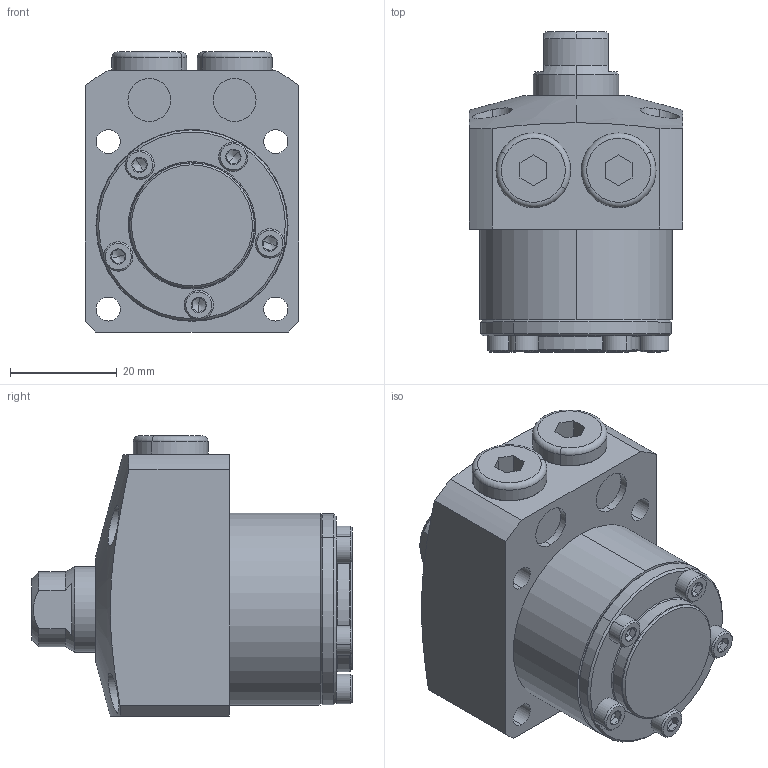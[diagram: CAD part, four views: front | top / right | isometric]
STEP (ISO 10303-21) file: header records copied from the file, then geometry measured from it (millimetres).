
FILE_DESCRIPTION (( 'STEP AP203' ), '1' );
FILE_NAME ('680360-CA-015.step', '2016-11-02T03:17:02', ( 'wxp' ), ( '' ), 'SwSTEP 2.0', 'SolidWorks 2011', '' );
FILE_SCHEMA (( 'CONFIG_CONTROL_DESIGN' ));
Length unit declared in the file: millimetre
Products named in the file (6): 680360-CA-015; 68036-15-5^680360-CA-015; 68036-15-4^680360-CA-015; 68036-15-3^680360-CA-015; 68036-15-2^680360-CA-015; 68036-15-1^680360-CA-015
Assembly tree (10 placements, depth 2):
  680360-CA-015
    68036-15-4^680360-CA-015  x5
    68036-15-3^680360-CA-015
    68036-15-1^680360-CA-015
    68036-15-5^680360-CA-015  x2
    68036-15-2^680360-CA-015
Bounding box: 40 x 60 x 52.5 mm (x, y, z)
Volume: 65910 mm3; surface area: 19030.4 mm2
Topology: 10 solids, 10 shells, 312 faces, 615 edges, 341 vertices
Faces by surface type: plane 125, cylinder 87, cone 84, torus 16
Entity records: 5529 total; most frequent: CARTESIAN_POINT 1131, DIRECTION 843, ORIENTED_EDGE 686, AXIS2_PLACEMENT_3D 353, EDGE_CURVE 343, VERTEX_POINT 209, EDGE_LOOP 198, CIRCLE 178
